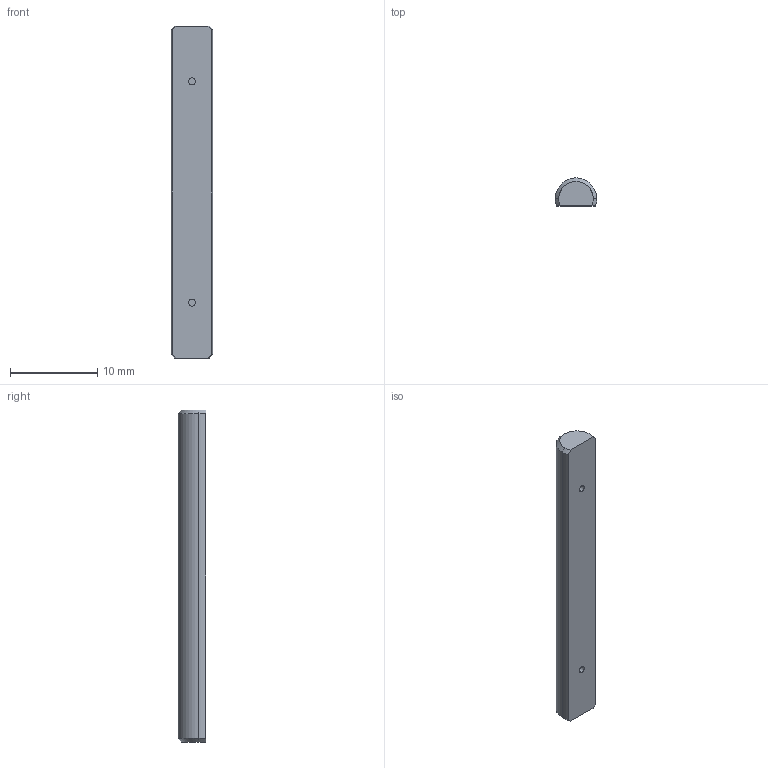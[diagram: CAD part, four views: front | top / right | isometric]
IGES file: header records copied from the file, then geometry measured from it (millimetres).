
Start section: SolidWorks IGES file using analytic representation for surfaces
Global section: file name: D:\Solid_parts\MECHeDESIGN\Bal-Tec\Catalog 105-A\Distribution\IGES\187-TC-BH.IGS; native system: SolidWorks 2005 by SolidWorks Corporation; preprocessor: SolidWorks 2005 by SolidWorks Corporation; author: rvillegas; date: 061205.185915; units: inch
Bounding box: 4.76 x 3.17 x 38.1 mm (x, y, z)
Surface area: 542.1 mm2 (no closed solid volume)
Topology: 0 solids, 0 shells, 18 faces, 166 edges, 166 vertices
Faces by surface type: revolution 13, bspline 5
